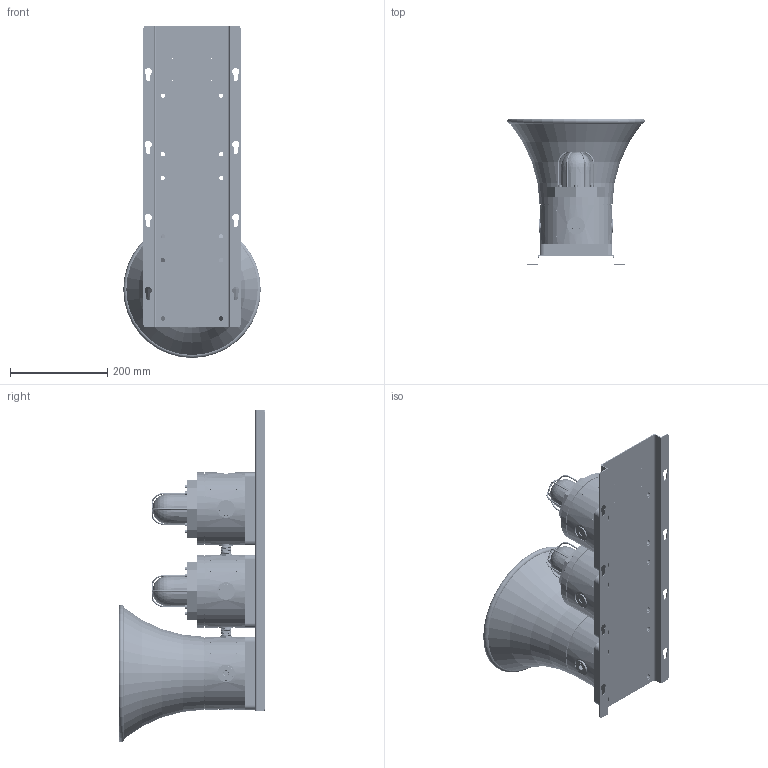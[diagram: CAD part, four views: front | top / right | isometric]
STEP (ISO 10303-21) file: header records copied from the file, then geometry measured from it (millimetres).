
FILE_DESCRIPTION((''),'2;1');
FILE_NAME('0-SB150-TYPE3_ASM','2015-12-21T',('Administrator'),(''),'PRO/ENGINEER BY PARAMETRIC TECHNOLOGY CORPORATION, 2008090','PRO/ENGINEER BY PARAMETRIC TECHNOLOGY CORPORATION, 2008090','');
FILE_SCHEMA(('CONFIG_CONTROL_DESIGN'));
Length unit declared in the file: millimetre
Products named in the file (40): 50020210263; 55060250101; 55050250104; 50050250106; 50050250105; 50500280237; 55100110920; M4-15; 50000010301-M5; UPPER-CASE; BASE-COVER; ASM0001_ASM; 50060120606; TEMINAL-4; NEW-SOUNDER-PCB-PLAT; SWITCH-A; SWITCH-B; SWITCH-C; SWITCH-D; NEW-SOUNDER-PCB_ASM; NEW-LOGO; 0-SD150-W_ASM; 55060250102; 50060210109; 50060210110; 55060170103; 55060250108; 50060150601; 50050280202; 55060110205; M4-10; 0-BC150_ASM; 55020110203; LINE-9; 51872010006; 50020110207; 0-CT20_ASM; 55020210228; 50020110229; 0-SB150-TYPE3_ASM
Assembly tree (69 placements, depth 4):
  0-SB150-TYPE3_ASM
    50020210263
    0-SD150-W_ASM
      55060250101
      55050250104
      50050250106
      50050250105
      50500280237
      55100110920  x3
      M4-15  x3
      50000010301-M5  x6
      ASM0001_ASM
        UPPER-CASE
        BASE-COVER
      NEW-SOUNDER-PCB_ASM
        50060120606
        TEMINAL-4
        NEW-SOUNDER-PCB-PLAT
        SWITCH-A
        SWITCH-B
        SWITCH-C
        SWITCH-D  x4
      NEW-LOGO
    0-BC150_ASM  x2
      55060250101
      55060250102
      50060210109
      50060210110
      55060170103
      55060250108
      50060150601
      50050280202
      55060110205
      50000010301-M5
      M4-10
    0-CT20_ASM  x2
      55020110203
      LINE-9
      51872010006
      50020110207
    55020210228
    50020110229
Bounding box: 282.76 x 300 x 682.88 mm (x, y, z)
Volume: 6180707.2 mm3; surface area: 1663254.7 mm2
Topology: 107 solids, 254 shells, 14243 faces, 38239 edges, 24966 vertices
Faces by surface type: plane 10024, cylinder 2096, cone 754, bspline 581, torus 483, sphere 305
Entity records: 280172 total; most frequent: CARTESIAN_POINT 82671, ORIENTED_EDGE 42524, DIRECTION 37791, EDGE_CURVE 21377, VECTOR 16161, LINE 16161, VERTEX_POINT 14027, AXIS2_PLACEMENT_3D 10815
